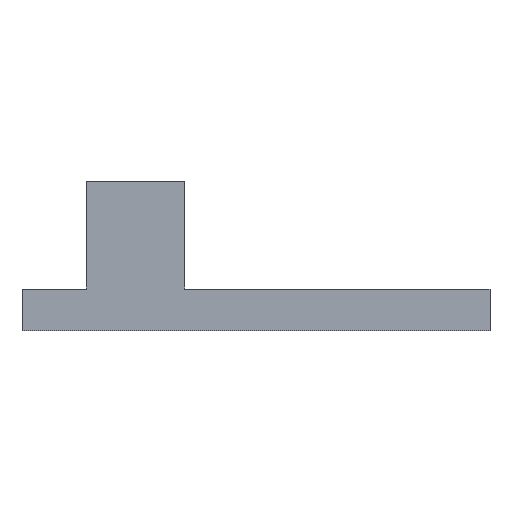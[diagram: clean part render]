
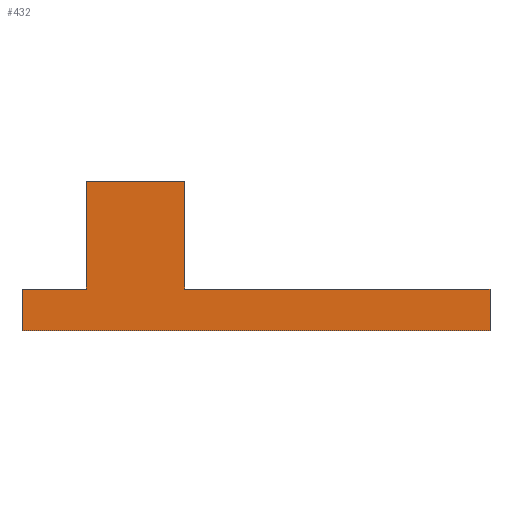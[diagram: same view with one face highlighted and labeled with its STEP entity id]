
A CAD part, front view. The second image highlights one B-rep face of the part: STEP entity #432.
In plain terms, the highlighted planar face has unit normal (0, -1, 0).
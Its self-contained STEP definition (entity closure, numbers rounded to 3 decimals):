
#24 = VERTEX_POINT('',#25);
#25 = CARTESIAN_POINT('',(28.,-30.,-35.));
#32 = PLANE('',#33);
#33 = AXIS2_PLACEMENT_3D('',#34,#35,#36);
#34 = CARTESIAN_POINT('',(28.,-12.,-40.));
#35 = DIRECTION('',(-1.,0.,0.));
#36 = DIRECTION('',(0.,0.,1.));
#44 = PLANE('',#45);
#45 = AXIS2_PLACEMENT_3D('',#46,#47,#48);
#46 = CARTESIAN_POINT('',(28.,-12.,-35.));
#47 = DIRECTION('',(0.,0.,1.));
#48 = DIRECTION('',(-1.,0.,0.));
#197 = VERTEX_POINT('',#198);
#198 = CARTESIAN_POINT('',(28.,-30.,-40.));
#212 = PLANE('',#213);
#213 = AXIS2_PLACEMENT_3D('',#214,#215,#216);
#214 = CARTESIAN_POINT('',(28.,-12.,-40.));
#215 = DIRECTION('',(0.,0.,1.));
#216 = DIRECTION('',(-1.,0.,0.));
#224 = EDGE_CURVE('',#197,#24,#225,.T.);
#225 = SURFACE_CURVE('',#226,(#230,#237),.PCURVE_S1.);
#226 = LINE('',#227,#228);
#227 = CARTESIAN_POINT('',(28.,-30.,-40.));
#228 = VECTOR('',#229,1.);
#229 = DIRECTION('',(0.,0.,1.));
#230 = PCURVE('',#32,#231);
#231 = DEFINITIONAL_REPRESENTATION('',(#232),#236);
#232 = LINE('',#233,#234);
#233 = CARTESIAN_POINT('',(0.,-18.));
#234 = VECTOR('',#235,1.);
#235 = DIRECTION('',(1.,0.));
#236 = ( GEOMETRIC_REPRESENTATION_CONTEXT(2) 
PARAMETRIC_REPRESENTATION_CONTEXT() REPRESENTATION_CONTEXT('2D SPACE',''
  ) );
#237 = PCURVE('',#238,#243);
#238 = PLANE('',#239);
#239 = AXIS2_PLACEMENT_3D('',#240,#241,#242);
#240 = CARTESIAN_POINT('',(28.,-30.,-40.));
#241 = DIRECTION('',(0.,-1.,0.));
#242 = DIRECTION('',(0.,0.,1.));
#243 = DEFINITIONAL_REPRESENTATION('',(#244),#248);
#244 = LINE('',#245,#246);
#245 = CARTESIAN_POINT('',(0.,0.));
#246 = VECTOR('',#247,1.);
#247 = DIRECTION('',(1.,0.));
#248 = ( GEOMETRIC_REPRESENTATION_CONTEXT(2) 
PARAMETRIC_REPRESENTATION_CONTEXT() REPRESENTATION_CONTEXT('2D SPACE',''
  ) );
#253 = EDGE_CURVE('',#24,#254,#256,.T.);
#254 = VERTEX_POINT('',#255);
#255 = CARTESIAN_POINT('',(-8.5,-30.,-35.));
#256 = SURFACE_CURVE('',#257,(#261,#268),.PCURVE_S1.);
#257 = LINE('',#258,#259);
#258 = CARTESIAN_POINT('',(28.,-30.,-35.));
#259 = VECTOR('',#260,1.);
#260 = DIRECTION('',(-1.,0.,0.));
#261 = PCURVE('',#44,#262);
#262 = DEFINITIONAL_REPRESENTATION('',(#263),#267);
#263 = LINE('',#264,#265);
#264 = CARTESIAN_POINT('',(0.,18.));
#265 = VECTOR('',#266,1.);
#266 = DIRECTION('',(1.,0.));
#267 = ( GEOMETRIC_REPRESENTATION_CONTEXT(2) 
PARAMETRIC_REPRESENTATION_CONTEXT() REPRESENTATION_CONTEXT('2D SPACE',''
  ) );
#268 = PCURVE('',#238,#269);
#269 = DEFINITIONAL_REPRESENTATION('',(#270),#274);
#270 = LINE('',#271,#272);
#271 = CARTESIAN_POINT('',(5.,0.));
#272 = VECTOR('',#273,1.);
#273 = DIRECTION('',(0.,1.));
#274 = ( GEOMETRIC_REPRESENTATION_CONTEXT(2) 
PARAMETRIC_REPRESENTATION_CONTEXT() REPRESENTATION_CONTEXT('2D SPACE',''
  ) );
#301 = VERTEX_POINT('',#302);
#302 = CARTESIAN_POINT('',(-28.,-30.,-35.));
#316 = PLANE('',#317);
#317 = AXIS2_PLACEMENT_3D('',#318,#319,#320);
#318 = CARTESIAN_POINT('',(-28.,-12.,-40.));
#319 = DIRECTION('',(-1.,0.,0.));
#320 = DIRECTION('',(0.,0.,1.));
#328 = EDGE_CURVE('',#329,#301,#331,.T.);
#329 = VERTEX_POINT('',#330);
#330 = CARTESIAN_POINT('',(-20.3,-30.,-35.));
#331 = SURFACE_CURVE('',#332,(#336,#343),.PCURVE_S1.);
#332 = LINE('',#333,#334);
#333 = CARTESIAN_POINT('',(28.,-30.,-35.));
#334 = VECTOR('',#335,1.);
#335 = DIRECTION('',(-1.,0.,0.));
#336 = PCURVE('',#44,#337);
#337 = DEFINITIONAL_REPRESENTATION('',(#338),#342);
#338 = LINE('',#339,#340);
#339 = CARTESIAN_POINT('',(0.,18.));
#340 = VECTOR('',#341,1.);
#341 = DIRECTION('',(1.,0.));
#342 = ( GEOMETRIC_REPRESENTATION_CONTEXT(2) 
PARAMETRIC_REPRESENTATION_CONTEXT() REPRESENTATION_CONTEXT('2D SPACE',''
  ) );
#343 = PCURVE('',#238,#344);
#344 = DEFINITIONAL_REPRESENTATION('',(#345),#349);
#345 = LINE('',#346,#347);
#346 = CARTESIAN_POINT('',(5.,0.));
#347 = VECTOR('',#348,1.);
#348 = DIRECTION('',(0.,1.));
#349 = ( GEOMETRIC_REPRESENTATION_CONTEXT(2) 
PARAMETRIC_REPRESENTATION_CONTEXT() REPRESENTATION_CONTEXT('2D SPACE',''
  ) );
#367 = PLANE('',#368);
#368 = AXIS2_PLACEMENT_3D('',#369,#370,#371);
#369 = CARTESIAN_POINT('',(-20.3,88.,-32.9));
#370 = DIRECTION('',(-1.,0.,0.));
#371 = DIRECTION('',(0.,0.,1.));
#421 = PLANE('',#422);
#422 = AXIS2_PLACEMENT_3D('',#423,#424,#425);
#423 = CARTESIAN_POINT('',(-8.5,-22.,-35.));
#424 = DIRECTION('',(-1.,0.,0.));
#425 = DIRECTION('',(0.,0.,1.));
#432 = ADVANCED_FACE('',(#433),#238,.T.);
#433 = FACE_BOUND('',#434,.T.);
#434 = EDGE_LOOP('',(#435,#458,#459,#460,#483,#511,#532,#533));
#435 = ORIENTED_EDGE('',*,*,#436,.F.);
#436 = EDGE_CURVE('',#197,#437,#439,.T.);
#437 = VERTEX_POINT('',#438);
#438 = CARTESIAN_POINT('',(-28.,-30.,-40.));
#439 = SURFACE_CURVE('',#440,(#444,#451),.PCURVE_S1.);
#440 = LINE('',#441,#442);
#441 = CARTESIAN_POINT('',(28.,-30.,-40.));
#442 = VECTOR('',#443,1.);
#443 = DIRECTION('',(-1.,0.,0.));
#444 = PCURVE('',#238,#445);
#445 = DEFINITIONAL_REPRESENTATION('',(#446),#450);
#446 = LINE('',#447,#448);
#447 = CARTESIAN_POINT('',(0.,0.));
#448 = VECTOR('',#449,1.);
#449 = DIRECTION('',(0.,1.));
#450 = ( GEOMETRIC_REPRESENTATION_CONTEXT(2) 
PARAMETRIC_REPRESENTATION_CONTEXT() REPRESENTATION_CONTEXT('2D SPACE',''
  ) );
#451 = PCURVE('',#212,#452);
#452 = DEFINITIONAL_REPRESENTATION('',(#453),#457);
#453 = LINE('',#454,#455);
#454 = CARTESIAN_POINT('',(0.,18.));
#455 = VECTOR('',#456,1.);
#456 = DIRECTION('',(1.,0.));
#457 = ( GEOMETRIC_REPRESENTATION_CONTEXT(2) 
PARAMETRIC_REPRESENTATION_CONTEXT() REPRESENTATION_CONTEXT('2D SPACE',''
  ) );
#458 = ORIENTED_EDGE('',*,*,#224,.T.);
#459 = ORIENTED_EDGE('',*,*,#253,.T.);
#460 = ORIENTED_EDGE('',*,*,#461,.T.);
#461 = EDGE_CURVE('',#254,#462,#464,.T.);
#462 = VERTEX_POINT('',#463);
#463 = CARTESIAN_POINT('',(-8.5,-30.,-22.1));
#464 = SURFACE_CURVE('',#465,(#469,#476),.PCURVE_S1.);
#465 = LINE('',#466,#467);
#466 = CARTESIAN_POINT('',(-8.5,-30.,-35.));
#467 = VECTOR('',#468,1.);
#468 = DIRECTION('',(0.,0.,1.));
#469 = PCURVE('',#238,#470);
#470 = DEFINITIONAL_REPRESENTATION('',(#471),#475);
#471 = LINE('',#472,#473);
#472 = CARTESIAN_POINT('',(5.,36.5));
#473 = VECTOR('',#474,1.);
#474 = DIRECTION('',(1.,0.));
#475 = ( GEOMETRIC_REPRESENTATION_CONTEXT(2) 
PARAMETRIC_REPRESENTATION_CONTEXT() REPRESENTATION_CONTEXT('2D SPACE',''
  ) );
#476 = PCURVE('',#421,#477);
#477 = DEFINITIONAL_REPRESENTATION('',(#478),#482);
#478 = LINE('',#479,#480);
#479 = CARTESIAN_POINT('',(0.,-8.));
#480 = VECTOR('',#481,1.);
#481 = DIRECTION('',(1.,0.));
#482 = ( GEOMETRIC_REPRESENTATION_CONTEXT(2) 
PARAMETRIC_REPRESENTATION_CONTEXT() REPRESENTATION_CONTEXT('2D SPACE',''
  ) );
#483 = ORIENTED_EDGE('',*,*,#484,.F.);
#484 = EDGE_CURVE('',#485,#462,#487,.T.);
#485 = VERTEX_POINT('',#486);
#486 = CARTESIAN_POINT('',(-20.3,-30.,-22.1));
#487 = SURFACE_CURVE('',#488,(#492,#499),.PCURVE_S1.);
#488 = LINE('',#489,#490);
#489 = CARTESIAN_POINT('',(-20.3,-30.,-22.1));
#490 = VECTOR('',#491,1.);
#491 = DIRECTION('',(1.,0.,0.));
#492 = PCURVE('',#238,#493);
#493 = DEFINITIONAL_REPRESENTATION('',(#494),#498);
#494 = LINE('',#495,#496);
#495 = CARTESIAN_POINT('',(17.9,48.3));
#496 = VECTOR('',#497,1.);
#497 = DIRECTION('',(0.,-1.));
#498 = ( GEOMETRIC_REPRESENTATION_CONTEXT(2) 
PARAMETRIC_REPRESENTATION_CONTEXT() REPRESENTATION_CONTEXT('2D SPACE',''
  ) );
#499 = PCURVE('',#500,#505);
#500 = PLANE('',#501);
#501 = AXIS2_PLACEMENT_3D('',#502,#503,#504);
#502 = CARTESIAN_POINT('',(-17.2,88.,-22.1));
#503 = DIRECTION('',(0.,0.,1.));
#504 = DIRECTION('',(-1.,0.,0.));
#505 = DEFINITIONAL_REPRESENTATION('',(#506),#510);
#506 = LINE('',#507,#508);
#507 = CARTESIAN_POINT('',(3.1,118.));
#508 = VECTOR('',#509,1.);
#509 = DIRECTION('',(-1.,0.));
#510 = ( GEOMETRIC_REPRESENTATION_CONTEXT(2) 
PARAMETRIC_REPRESENTATION_CONTEXT() REPRESENTATION_CONTEXT('2D SPACE',''
  ) );
#511 = ORIENTED_EDGE('',*,*,#512,.F.);
#512 = EDGE_CURVE('',#329,#485,#513,.T.);
#513 = SURFACE_CURVE('',#514,(#518,#525),.PCURVE_S1.);
#514 = LINE('',#515,#516);
#515 = CARTESIAN_POINT('',(-20.3,-30.,-35.));
#516 = VECTOR('',#517,1.);
#517 = DIRECTION('',(0.,0.,1.));
#518 = PCURVE('',#238,#519);
#519 = DEFINITIONAL_REPRESENTATION('',(#520),#524);
#520 = LINE('',#521,#522);
#521 = CARTESIAN_POINT('',(5.,48.3));
#522 = VECTOR('',#523,1.);
#523 = DIRECTION('',(1.,0.));
#524 = ( GEOMETRIC_REPRESENTATION_CONTEXT(2) 
PARAMETRIC_REPRESENTATION_CONTEXT() REPRESENTATION_CONTEXT('2D SPACE',''
  ) );
#525 = PCURVE('',#367,#526);
#526 = DEFINITIONAL_REPRESENTATION('',(#527),#531);
#527 = LINE('',#528,#529);
#528 = CARTESIAN_POINT('',(-2.1,-118.));
#529 = VECTOR('',#530,1.);
#530 = DIRECTION('',(1.,0.));
#531 = ( GEOMETRIC_REPRESENTATION_CONTEXT(2) 
PARAMETRIC_REPRESENTATION_CONTEXT() REPRESENTATION_CONTEXT('2D SPACE',''
  ) );
#532 = ORIENTED_EDGE('',*,*,#328,.T.);
#533 = ORIENTED_EDGE('',*,*,#534,.F.);
#534 = EDGE_CURVE('',#437,#301,#535,.T.);
#535 = SURFACE_CURVE('',#536,(#540,#547),.PCURVE_S1.);
#536 = LINE('',#537,#538);
#537 = CARTESIAN_POINT('',(-28.,-30.,-40.));
#538 = VECTOR('',#539,1.);
#539 = DIRECTION('',(0.,0.,1.));
#540 = PCURVE('',#238,#541);
#541 = DEFINITIONAL_REPRESENTATION('',(#542),#546);
#542 = LINE('',#543,#544);
#543 = CARTESIAN_POINT('',(0.,56.));
#544 = VECTOR('',#545,1.);
#545 = DIRECTION('',(1.,0.));
#546 = ( GEOMETRIC_REPRESENTATION_CONTEXT(2) 
PARAMETRIC_REPRESENTATION_CONTEXT() REPRESENTATION_CONTEXT('2D SPACE',''
  ) );
#547 = PCURVE('',#316,#548);
#548 = DEFINITIONAL_REPRESENTATION('',(#549),#553);
#549 = LINE('',#550,#551);
#550 = CARTESIAN_POINT('',(0.,-18.));
#551 = VECTOR('',#552,1.);
#552 = DIRECTION('',(1.,0.));
#553 = ( GEOMETRIC_REPRESENTATION_CONTEXT(2) 
PARAMETRIC_REPRESENTATION_CONTEXT() REPRESENTATION_CONTEXT('2D SPACE',''
  ) );
